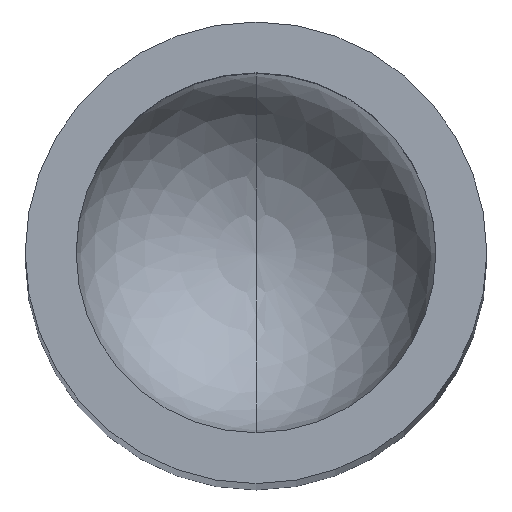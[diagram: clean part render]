
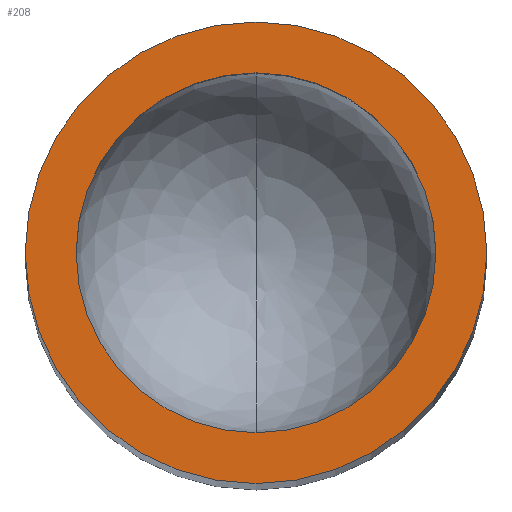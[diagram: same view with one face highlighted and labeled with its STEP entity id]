
A CAD part, top view. The second image highlights one B-rep face of the part: STEP entity #208.
In plain terms, the highlighted planar face has unit normal (0, 0, 1).
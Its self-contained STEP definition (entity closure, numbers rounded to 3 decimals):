
#29=CARTESIAN_POINT('',(0.,0.,23.5));
#30=DIRECTION('',(0.,0.,1.));
#31=DIRECTION('',(1.,0.,0.));
#32=AXIS2_PLACEMENT_3D('',#29,#30,#31);
#34=CARTESIAN_POINT('',(0.,0.,23.5));
#35=DIRECTION('',(0.,0.,1.));
#36=DIRECTION('',(-1.,0.,0.));
#37=AXIS2_PLACEMENT_3D('',#34,#35,#36);
#39=CARTESIAN_POINT('',(0.,0.,23.5));
#40=DIRECTION('',(0.,0.,-1.));
#41=DIRECTION('',(0.,-1.,0.));
#42=AXIS2_PLACEMENT_3D('',#39,#40,#41);
#44=CARTESIAN_POINT('',(0.,0.,23.5));
#45=DIRECTION('',(0.,0.,-1.));
#46=DIRECTION('',(0.,1.,0.));
#47=AXIS2_PLACEMENT_3D('',#44,#45,#46);
#116=CARTESIAN_POINT('',(-2.95,0.,23.5));
#118=VERTEX_POINT('',#116);
#120=CARTESIAN_POINT('',(2.95,0.,23.5));
#122=VERTEX_POINT('',#120);
#141=CARTESIAN_POINT('',(0.,-2.3,23.5));
#142=VERTEX_POINT('',#141);
#143=CARTESIAN_POINT('',(0.,2.3,23.5));
#144=VERTEX_POINT('',#143);
#193=CARTESIAN_POINT('',(0.,0.,23.5));
#194=DIRECTION('',(0.,0.,-1.));
#195=DIRECTION('',(-1.,0.,0.));
#196=AXIS2_PLACEMENT_3D('',#193,#194,#195);
#197=PLANE('',#196);
#198=ORIENTED_EDGE('',*,*,#187,.F.);
#199=ORIENTED_EDGE('',*,*,#156,.F.);
#200=EDGE_LOOP('',(#198,#199));
#201=FACE_OUTER_BOUND('',#200,.F.);
#203=ORIENTED_EDGE('',*,*,#202,.F.);
#205=ORIENTED_EDGE('',*,*,#204,.F.);
#206=EDGE_LOOP('',(#203,#205));
#207=FACE_BOUND('',#206,.F.);
#208=ADVANCED_FACE('',(#201,#207),#197,.F.);
#33=CIRCLE('',#32,2.95);
#38=CIRCLE('',#37,2.95);
#43=CIRCLE('',#42,2.3);
#48=CIRCLE('',#47,2.3);
#156=EDGE_CURVE('',#118,#122,#38,.T.);
#187=EDGE_CURVE('',#122,#118,#33,.T.);
#202=EDGE_CURVE('',#142,#144,#43,.T.);
#204=EDGE_CURVE('',#144,#142,#48,.T.);
